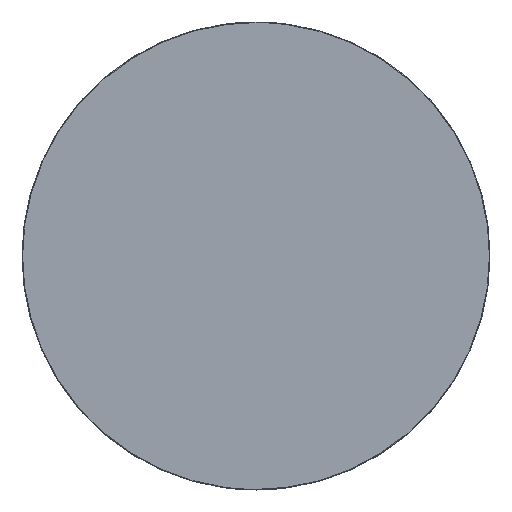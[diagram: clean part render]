
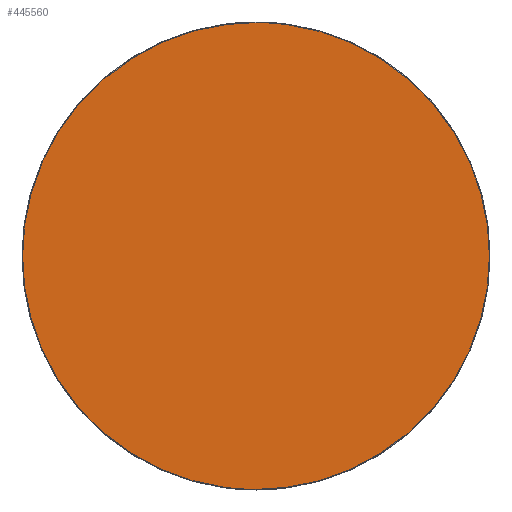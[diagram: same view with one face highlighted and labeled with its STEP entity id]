
A CAD part, top view. The second image highlights one B-rep face of the part: STEP entity #445560.
In plain terms, the highlighted free-form (B-spline) face has degree [1, 1] with [2, 2] control points.
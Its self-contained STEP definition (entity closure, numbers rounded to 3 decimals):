
#441300 = CARTESIAN_POINT ('', (0., -391., 515.5));
#441310 = VERTEX_POINT ('', #441300);
#441320 = CARTESIAN_POINT ('', (0., 407., 515.5));
#441330 = VERTEX_POINT ('', #441320);
#441340 = CARTESIAN_POINT ('', (0., -391., 515.5));
#441350 = CARTESIAN_POINT ('', (399., -391., 515.5));
#441360 = CARTESIAN_POINT ('', (399., 8., 515.5));
#441370 = CARTESIAN_POINT ('', (399., 407., 515.5));
#441380 = CARTESIAN_POINT ('', (0., 407., 515.5));
#441390 = (
   BOUNDED_CURVE ()
   B_SPLINE_CURVE (2, (#441340, #441350, #441360, #441370, #441380), .UNSPECIFIED., .F., .U.)
   B_SPLINE_CURVE_WITH_KNOTS ((3, 2, 3), (0., 90., 180.), .UNSPECIFIED.)
   CURVE ()
   GEOMETRIC_REPRESENTATION_ITEM ()
   RATIONAL_B_SPLINE_CURVE ((1., 0.707, 1., 0.707, 1.))
   REPRESENTATION_ITEM ('')
);
#441400 = EDGE_CURVE ('', #441310, #441330, #441390, .T.);
#445400 = CARTESIAN_POINT ('', (0., 407., 515.5));
#445410 = CARTESIAN_POINT ('', (-399., 407., 515.5));
#445420 = CARTESIAN_POINT ('', (-399., 8., 515.5));
#445430 = CARTESIAN_POINT ('', (-399., -391., 515.5));
#445440 = CARTESIAN_POINT ('', (0., -391., 515.5));
#445450 = (
   BOUNDED_CURVE ()
   B_SPLINE_CURVE (2, (#445400, #445410, #445420, #445430, #445440), .UNSPECIFIED., .F., .U.)
   B_SPLINE_CURVE_WITH_KNOTS ((3, 2, 3), (180., 270., 360.), .UNSPECIFIED.)
   CURVE ()
   GEOMETRIC_REPRESENTATION_ITEM ()
   RATIONAL_B_SPLINE_CURVE ((1., 0.707, 1., 0.707, 1.))
   REPRESENTATION_ITEM ('')
);
#445460 = EDGE_CURVE ('', #441330, #441310, #445450, .T.);
#445470 = ORIENTED_EDGE ('', *, *, #445460, .T.);
#445480 = ORIENTED_EDGE ('', *, *, #441400, .T.);
#445490 = EDGE_LOOP ('', (#445470, #445480));
#445500 = FACE_OUTER_BOUND ('', #445490, .T.);
#445510 = CARTESIAN_POINT ('', (-399.001, 407.001, 515.5));
#445520 = CARTESIAN_POINT ('', (399.001, 407.001, 515.5));
#445530 = CARTESIAN_POINT ('', (-399.001, -391.001, 515.5));
#445540 = CARTESIAN_POINT ('', (399.001, -391.001, 515.5));
#445550 = B_SPLINE_SURFACE_WITH_KNOTS ('', 1, 1, ((#445510, #445520), (#445530, #445540)), .UNSPECIFIED., .F., .F., .U., (2, 2), (2, 2), (-399.001, 399.001), (-399.001, 399.001), .UNSPECIFIED.);
#445560 = ADVANCED_FACE ('', (#445500), #445550, .T.);
